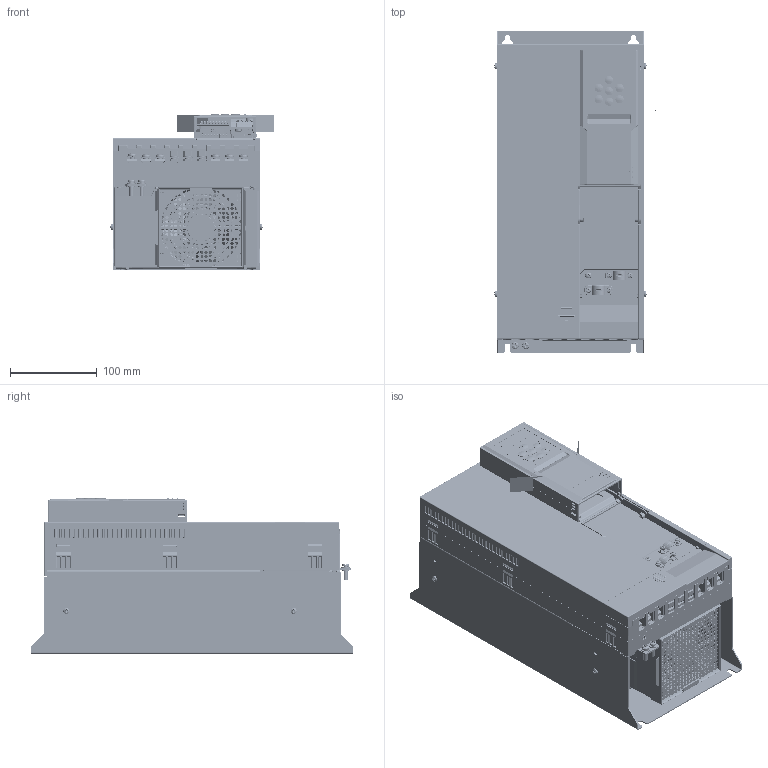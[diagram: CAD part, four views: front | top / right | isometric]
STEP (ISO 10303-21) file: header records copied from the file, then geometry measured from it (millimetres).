
FILE_DESCRIPTION((''),'2;1');
FILE_NAME('D4-DRIVE_REV00_ASM','2022-03-02T10:26:33',('wendong.luo'),(''),'CREO PARAMETRIC BY PTC INC, 2018100','CREO PARAMETRIC BY PTC INC, 2018100','');
FILE_SCHEMA(('CONFIG_CONTROL_DESIGN','GEOMETRIC_VALIDATION_PROPERTIES_MIM'));
Products named in the file (30): D4-MECHANICAL-PART; M0100011; M0100015; M0203012; E0400030; M0202007; M0202003; M0202000; M0104022; M0104021; FAN9238; AIR-IN-FILTER; FAN-ASM-9238_ASM; E0400047; E0400044; D4-PU_ASM; M0104033; E0100084; E0400023; E0400008; E0400009; E0400001; E0400011; E0100084_ASM; M0203006; M0203025; M0203032; M0104034; CU_NEW_ASM; D4-DRIVE_REV00_ASM
Assembly tree (40 placements, depth 4):
  D4-DRIVE_REV00_ASM
    D4-PU_ASM
      D4-MECHANICAL-PART
      M0100011
      M0100015  x2
      M0203012
      E0400030
      M0202007  x2
      M0202003  x4
      M0202000  x5
      M0104022
      FAN-ASM-9238_ASM
        M0104021
        FAN9238
        AIR-IN-FILTER
      E0400047
      E0400044  x2
    CU_NEW_ASM
      M0104033
      E0100084_ASM
        E0100084
        E0400023
        E0400008
        E0400009  x2
        E0400001
        E0400011
      M0203006
      M0203025
      M0203032
      M0104034
Bounding box: 187.77 x 370 x 179.35 mm (x, y, z)
Volume: 7033359.7 mm3; surface area: 879198.5 mm2
Topology: 53 solids, 84 shells, 20431 faces, 55176 edges, 35747 vertices
Faces by surface type: plane 12098, cylinder 3409, bspline 2182, extrusion 1883, cone 537, torus 195, sphere 127
Entity records: 844046 total; most frequent: CARTESIAN_POINT 238876, ORIENTED_EDGE 99864, DIRECTION 78349, EDGE_CURVE 49970, PRESENTATION_STYLE_ASSIGNMENT 44755, STYLED_ITEM 42627, CURVE_STYLE 41925, VECTOR 36181
